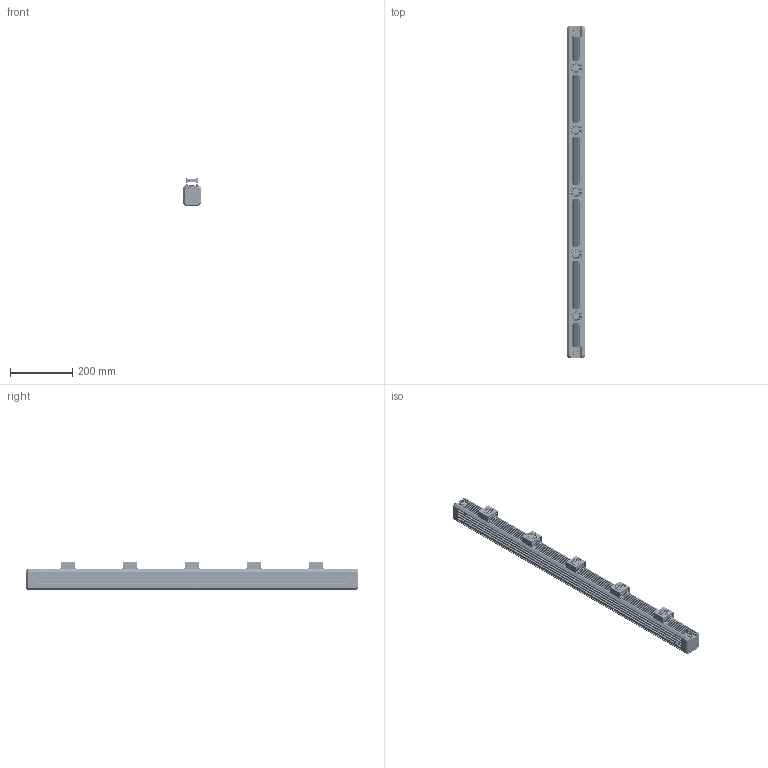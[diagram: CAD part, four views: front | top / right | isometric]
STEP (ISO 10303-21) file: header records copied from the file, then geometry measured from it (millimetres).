
FILE_DESCRIPTION((''),'2;1');
FILE_NAME('MV-LTDS-H-1000-W_ASM_1_ASM','2025-06-03T15:20:31',('huguozhe'),(''),'CREO PARAMETRIC BY PTC INC, 2020044','CREO PARAMETRIC BY PTC INC, 2020044','');
FILE_SCHEMA(('AUTOMOTIVE_DESIGN { 1 0 10303 214 1 1 1 1 }'));
Products named in the file (26): DE-15-000343_1; DE-15-000383_ASM_1_ASM; DE-15-000344_1; DE-15-000385_ASM_1_ASM; DE-20-002834_ASM_1_ASM; SC-HSCM3X6B-GB70_1_1; DE-12-001331_1; SC-AM3X10NL-BNI-SCM435-GB70_1_1; SC-HSCM3X8-SUS316_1; DE-11-019911_1; 8002-CLS-M3-1_1; DE-11-019911_ASM_1_ASM; 101800527_01_1; 101800527_02_1; 101800527_MGA4012HB-O10_ASM_1_ASM; SC-ASFM3X14NL-BNI-SUS316L_1; NUT-M4-GB6170_1; DE-14-015560_1_1_1; DE-14-016113_ASM_1_1_ASM_1_ASM; DE-14-016113_ASM_ASM_1_ASM; 19M-H_2_1_1_1; 19M-8H-8P_1_1; 19M-8H_ASM_1_ASM_1_ASM; 19M-8H_ASM_ASM_1_ASM; DE-14-016113-19M-8H_ASM; MV-LTDS-H-1000-W_ASM_1_ASM
Assembly tree (107 placements, depth 5):
  MV-LTDS-H-1000-W_ASM_1_ASM
    DE-15-000383_ASM_1_ASM
      DE-15-000343_1
    DE-20-002834_ASM_1_ASM  x2
      DE-15-000385_ASM_1_ASM
        DE-15-000344_1
    SC-HSCM3X6B-GB70_1_1  x10
    DE-12-001331_1
    SC-AM3X10NL-BNI-SCM435-GB70_1_1  x28
    SC-HSCM3X8-SUS316_1  x8
    DE-11-019911_ASM_1_ASM  x5
      DE-11-019911_1
      8002-CLS-M3-1_1
    101800527_MGA4012HB-O10_ASM_1_ASM  x5
      101800527_01_1
      101800527_02_1
    SC-ASFM3X14NL-BNI-SUS316L_1  x20
    NUT-M4-GB6170_1  x8
    DE-14-016113-19M-8H_ASM  x2
      DE-14-016113_ASM_ASM_1_ASM
        DE-14-016113_ASM_1_1_ASM_1_ASM
          DE-14-015560_1_1_1
      19M-8H_ASM_ASM_1_ASM
        19M-8H_ASM_1_ASM_1_ASM
          19M-H_2_1_1_1
          19M-8H-8P_1_1
Bounding box: 58 x 1070 x 90.6 mm (x, y, z)
Volume: 3270144.6 mm3; surface area: 905606.8 mm2
Topology: 119 solids, 333 shells, 6565 faces, 17564 edges, 11333 vertices
Faces by surface type: plane 2957, cylinder 2314, cone 876, torus 326, bspline 60, sphere 32
Entity records: 86408 total; most frequent: CARTESIAN_POINT 23999, DIRECTION 10799, ORIENTED_EDGE 9432, EDGE_CURVE 4890, AXIS2_PLACEMENT_3D 4202, VERTEX_POINT 3255, PRESENTATION_STYLE_ASSIGNMENT 2717, STYLED_ITEM 2717
